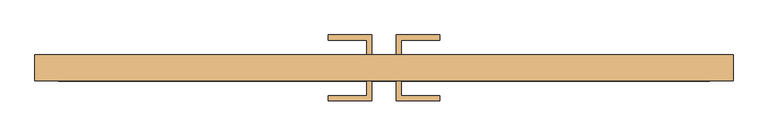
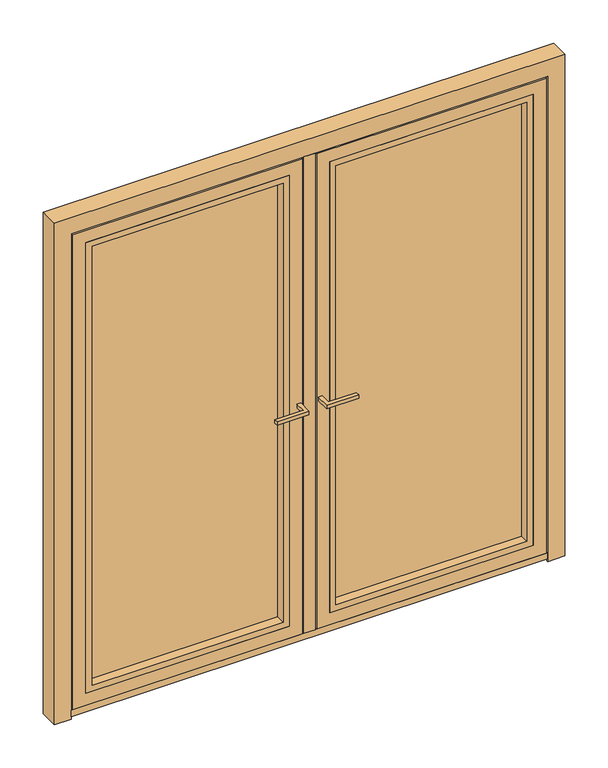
"""IFC4 building model written with IfcOpenShell, lengths in millimetres: door geometry, Reynaers_MasterLine 8_Door_Miter_Outward Opening_Double Vent : Reynaers_MasterLine 8_Door_Miter_Outward Opening_Double Vent."""

from ifc_helpers import new_model, si_unit, frame, origin, place, context, project, spatial, polyline, outline, extrude, faceted_brep, source, transform, mapped, element, save


def door_a939d6f6(model_context):
    return source(origin(), model_context, "Body", "SolidModel", [
        extrude(outline(polyline([(35.3, 80.0), (35.3, 137.5), (162.8, 137.5), (162.8, 122.5), (50.3, 122.5), (50.3, 80.0), (35.3, 80.0)])), frame((0.0, 0.0, 1001.0), z_axis=(0.0, 0.0, 1.0), x_axis=(1.0, 0.0, 0.0)), (0.0, 0.0, 1.0), 15.0),
        extrude(outline(polyline([(-35.3, 80.0), (-50.3, 80.0), (-50.3, 122.5), (-162.8, 122.5), (-162.8, 137.5), (-35.3, 137.5), (-35.3, 80.0)])), frame((0.0, 0.0, 1001.0), z_axis=(0.0, 0.0, 1.0), x_axis=(1.0, 0.0, 0.0)), (0.0, 0.0, 1.0), 15.0),
        extrude(outline(polyline([(-35.3, 3.0), (-35.3, -54.5), (-162.8, -54.5), (-162.8, -39.5), (-50.3, -39.5), (-50.3, 3.0), (-35.3, 3.0)])), frame((0.0, 0.0, 1001.0), z_axis=(0.0, 0.0, 1.0), x_axis=(1.0, 0.0, 0.0)), (0.0, 0.0, 1.0), 15.0),
        extrude(outline(polyline([(35.3, 3.0), (50.3, 3.0), (50.3, -39.5), (162.8, -39.5), (162.8, -54.5), (35.3, -54.5), (35.3, 3.0)])), frame((0.0, 0.0, 1001.0), z_axis=(0.0, 0.0, 1.0), x_axis=(1.0, 0.0, 0.0)), (0.0, 0.0, 1.0), 15.0),
        extrude(outline(polyline([(951.5, 35.5), (951.5, 15.7), (-951.5, 15.7), (-951.5, 35.5), (951.5, 35.5)])), frame((0.0, 0.0, 1.0), z_axis=(0.0, 0.0, 1.0), x_axis=(1.0, 0.0, 0.0)), (0.0, 0.0, 1.0), 25.0),
        faceted_brep([(8.0, 76.2, 2071.5), (-18.0, 76.2, 2071.5), (-18.0, 11.8, 2071.5), (8.0, 11.8, 2071.5), (-18.0, 11.8, 11.0), (-18.0, 76.2, 11.0), (8.0, 76.2, 11.0), (8.0, 11.8, 11.0), (23.0, 3.0, 2051.5), (-23.0, 3.0, 2051.5), (-23.0, 3.0, 37.0), (23.0, 3.0, 37.0), (23.0, 6.8, 2051.5), (23.0, 6.8, 37.0), (8.0, 6.8, 2051.5), (8.0, 6.8, 37.0), (8.0, 11.8, 2051.5), (8.0, 11.8, 37.0), (-18.0, 11.8, 37.0), (-18.0, 11.8, 2051.5), (-23.0, 11.8, 2051.5), (-23.0, 11.8, 37.0)], [[[0, 1, 2, 3]], [[4, 5, 6, 7]], [[8, 9, 10, 11]], [[12, 8, 11, 13]], [[14, 12, 13, 15]], [[6, 0, 3, 16, 14, 15, 17, 7]], [[1, 0, 6, 5]], [[2, 1, 5, 4, 18, 19]], [[20, 19, 18, 21]], [[9, 20, 21, 10]], [[19, 16, 3, 2]], [[16, 19, 20, 9, 8, 12, 14]], [[17, 18, 4, 7]], [[18, 17, 15, 13, 11, 10, 21]]]),
        extrude(outline(polyline([(951.5, 6.8), (951.5, 3.0), (-951.5, 3.0), (-951.5, 6.8), (951.5, 6.8)])), frame((0.0, 0.0, 11.0), z_axis=(0.0, 0.0, 1.0), x_axis=(1.0, 0.0, 0.0)), (0.0, 0.0, 1.0), 26.0),
        extrude(outline(polyline([(88.5, 80.5), (88.5, 894.0), (1994.0, 894.0), (1994.0, 80.5), (88.5, 80.5)]), holes=[polyline([(1969.0, 105.5), (1969.0, 869.0), (113.5, 869.0), (113.5, 105.5), (1969.0, 105.5)])]), frame((0.0, 3.0, 0.0), z_axis=(0.0, 1.0, 0.0), x_axis=(0.0, 0.0, 1.0)), (0.0, 0.0, 1.0), 37.2),
        extrude(outline(polyline([(1994.0, -894.0), (88.5, -894.0), (88.5, -80.5), (1994.0, -80.5), (1994.0, -894.0)]), holes=[polyline([(1969.0, -105.5), (113.5, -105.5), (113.5, -869.0), (1969.0, -869.0), (1969.0, -105.5)])]), frame((0.0, 3.0, 0.0), z_axis=(0.0, 1.0, 0.0), x_axis=(0.0, 0.0, 1.0)), (0.0, 0.0, 1.0), 37.2),
        faceted_brep([(29.0, 11.8, 37.0), (29.0, 3.0, 37.0), (29.0, 3.0, 2045.5), (29.0, 11.8, 2045.5), (18.0, 76.2, 26.0), (18.0, 11.8, 26.0), (18.0, 11.8, 2056.5), (18.0, 76.2, 2056.5), (3.0, 80.0, 11.0), (3.0, 76.2, 11.0), (3.0, 76.2, 2071.5), (3.0, 80.0, 2071.5), (107.5, 72.0, 115.5), (107.5, 80.0, 115.5), (107.5, 80.0, 1967.0), (107.5, 72.0, 1967.0), (80.5, 3.0, 88.5), (80.5, 72.0, 88.5), (80.5, 72.0, 1994.0), (80.5, 3.0, 1994.0), (945.5, 3.0, 2045.5), (945.5, 11.8, 2045.5), (956.5, 11.8, 2056.5), (956.5, 76.2, 2056.5), (971.5, 76.2, 2071.5), (971.5, 80.0, 2071.5), (867.0, 80.0, 1967.0), (867.0, 72.0, 1967.0), (894.0, 72.0, 1994.0), (894.0, 3.0, 1994.0), (945.5, 3.0, 37.0), (945.5, 11.8, 37.0), (956.5, 11.8, 26.0), (956.5, 76.2, 26.0), (971.5, 76.2, 11.0), (971.5, 80.0, 11.0), (867.0, 80.0, 115.5), (867.0, 72.0, 115.5), (894.0, 72.0, 88.5), (894.0, 3.0, 88.5)], [[[0, 1, 2, 3]], [[4, 5, 6, 7]], [[8, 9, 10, 11]], [[12, 13, 14, 15]], [[16, 17, 18, 19]], [[3, 2, 20, 21]], [[7, 6, 22, 23]], [[11, 10, 24, 25]], [[15, 14, 26, 27]], [[19, 18, 28, 29]], [[21, 20, 30, 31]], [[23, 22, 32, 33]], [[25, 24, 34, 35]], [[27, 26, 36, 37]], [[29, 28, 38, 39]], [[1, 30, 20, 2], [19, 29, 39, 16]], [[31, 30, 1, 0]], [[5, 32, 22, 6], [3, 21, 31, 0]], [[33, 32, 5, 4]], [[9, 34, 24, 10], [7, 23, 33, 4]], [[35, 34, 9, 8]], [[11, 25, 35, 8], [13, 36, 26, 14]], [[37, 36, 13, 12]], [[17, 38, 28, 18], [15, 27, 37, 12]], [[39, 38, 17, 16]]]),
        faceted_brep([(-977.5, 71.2, 0.0), (-966.5, 71.2, 0.0), (-966.5, 6.8, 0.0), (-951.5, 6.8, 0.0), (-951.5, 3.0, 0.0), (-1020.0, 3.0, 0.0), (-1020.0, 80.0, 0.0), (-977.5, 80.0, 0.0), (977.5, 71.2, 0.0), (977.5, 80.0, 0.0), (1020.0, 80.0, 0.0), (1020.0, 3.0, 0.0), (951.5, 3.0, 0.0), (951.5, 6.8, 0.0), (966.5, 6.8, 0.0), (966.5, 71.2, 0.0), (-977.5, 71.2, 2077.5), (977.5, 71.2, 2077.5), (966.5, 71.2, 2066.5), (-966.5, 71.2, 2066.5), (-966.5, 6.8, 2066.5), (966.5, 6.8, 2066.5), (951.5, 6.8, 2051.5), (-951.5, 6.8, 2051.5), (-951.5, 3.0, 2051.5), (951.5, 3.0, 2051.5), (1020.0, 3.0, 2120.0), (-1020.0, 3.0, 2120.0), (-1020.0, 80.0, 2120.0), (1020.0, 80.0, 2120.0), (977.5, 80.0, 2077.5), (-977.5, 80.0, 2077.5)], [[[0, 1, 2, 3, 4, 5, 6, 7]], [[8, 9, 10, 11, 12, 13, 14, 15]], [[1, 0, 16, 17, 8, 15, 18, 19]], [[2, 1, 19, 20]], [[3, 2, 20, 21, 14, 13, 22, 23]], [[4, 3, 23, 24]], [[5, 4, 24, 25, 12, 11, 26, 27]], [[6, 5, 27, 28]], [[7, 6, 28, 29, 10, 9, 30, 31]], [[0, 7, 31, 16]], [[20, 19, 18, 21]], [[24, 23, 22, 25]], [[28, 27, 26, 29]], [[16, 31, 30, 17]], [[21, 18, 15, 14]], [[25, 22, 13, 12]], [[29, 26, 11, 10]], [[17, 30, 9, 8]]]),
        faceted_brep([(-956.5, 76.2, 2056.5), (-956.5, 11.8, 2056.5), (-18.0, 11.8, 2056.5), (-18.0, 76.2, 2056.5), (-971.5, 80.0, 2071.5), (-971.5, 76.2, 2071.5), (-3.0, 76.2, 2071.5), (-3.0, 80.0, 2071.5), (-867.0, 72.0, 1967.0), (-867.0, 80.0, 1967.0), (-107.5, 80.0, 1967.0), (-107.5, 72.0, 1967.0), (-894.0, 3.0, 1994.0), (-894.0, 72.0, 1994.0), (-80.5, 72.0, 1994.0), (-80.5, 3.0, 1994.0), (-945.5, 11.8, 2045.5), (-945.5, 3.0, 2045.5), (-29.0, 3.0, 2045.5), (-29.0, 11.8, 2045.5), (-18.0, 11.8, 26.0), (-18.0, 76.2, 26.0), (-3.0, 76.2, 11.0), (-3.0, 80.0, 11.0), (-107.5, 80.0, 115.5), (-107.5, 72.0, 115.5), (-80.5, 72.0, 88.5), (-80.5, 3.0, 88.5), (-29.0, 3.0, 37.0), (-29.0, 11.8, 37.0), (-956.5, 11.8, 26.0), (-956.5, 76.2, 26.0), (-971.5, 76.2, 11.0), (-971.5, 80.0, 11.0), (-867.0, 80.0, 115.5), (-867.0, 72.0, 115.5), (-894.0, 72.0, 88.5), (-894.0, 3.0, 88.5), (-945.5, 3.0, 37.0), (-945.5, 11.8, 37.0)], [[[0, 1, 2, 3]], [[4, 5, 6, 7]], [[8, 9, 10, 11]], [[12, 13, 14, 15]], [[16, 17, 18, 19]], [[3, 2, 20, 21]], [[7, 6, 22, 23]], [[11, 10, 24, 25]], [[15, 14, 26, 27]], [[19, 18, 28, 29]], [[21, 20, 30, 31]], [[23, 22, 32, 33]], [[25, 24, 34, 35]], [[27, 26, 36, 37]], [[29, 28, 38, 39]], [[31, 30, 1, 0]], [[5, 32, 22, 6], [3, 21, 31, 0]], [[33, 32, 5, 4]], [[7, 23, 33, 4], [9, 34, 24, 10]], [[35, 34, 9, 8]], [[13, 36, 26, 14], [11, 25, 35, 8]], [[37, 36, 13, 12]], [[17, 38, 28, 18], [15, 27, 37, 12]], [[39, 38, 17, 16]], [[1, 30, 20, 2], [19, 29, 39, 16]]]),
        extrude(outline(polyline([(886.0, 72.0), (886.0, 45.0), (88.5, 45.0), (88.5, 72.0), (886.0, 72.0)])), frame((0.0, 0.0, 96.5), z_axis=(0.0, 0.0, 1.0), x_axis=(1.0, 0.0, 0.0)), (0.0, 0.0, 1.0), 1889.5),
        extrude(outline(polyline([(-88.5, 45.0), (-886.0, 45.0), (-886.0, 72.0), (-88.5, 72.0), (-88.5, 45.0)])), frame((0.0, 0.0, 96.5), z_axis=(0.0, 0.0, 1.0), x_axis=(1.0, 0.0, 0.0)), (0.0, 0.0, 1.0), 1889.5),
    ])


if __name__ == "__main__":
    model = new_model("IFC4")
    model_context = context("Model", 3, world=origin())
    ifc_project = project(units=[si_unit("LENGTHUNIT", "METRE", prefix="MILLI")], contexts=[model_context])
    site = spatial("IfcSite", under=ifc_project)
    building = spatial("IfcBuilding", under=site)
    placement = place(None, origin())
    door_shape = door_a939d6f6(model_context)
    element("IfcDoor", 1, ObjectType="Reynaers_MasterLine 8_Door_Miter_Outward Opening_Double Vent : Reynaers_MasterLine 8_Door_Miter_Outward Opening_Double Vent", at=placement, inside=building, context=model_context, shape_type="MappedRepresentation", body=[
        mapped(door_shape, transform((0.0, 0.0, 0.0), x_axis=(1.0, 0.0, 0.0), y_axis=(0.0, 1.0, 0.0), z_axis=(0.0, 0.0, 1.0))),
    ])
    save(model, "model.ifc")
